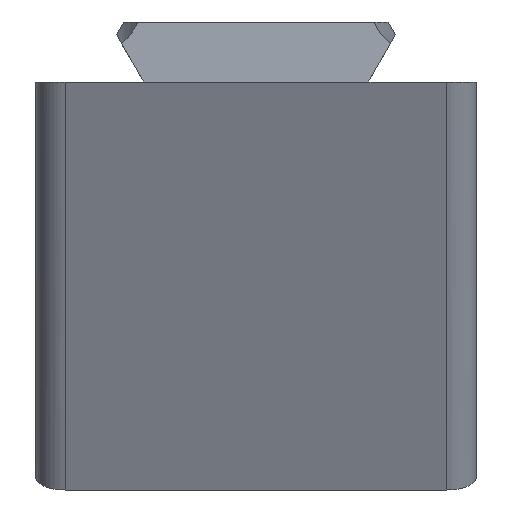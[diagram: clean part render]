
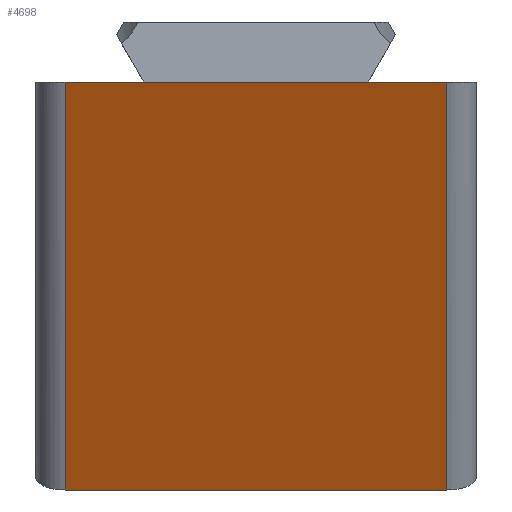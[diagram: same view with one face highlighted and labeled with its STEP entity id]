
A CAD part, left-side view. The second image highlights one B-rep face of the part: STEP entity #4698.
In plain terms, the highlighted planar face has unit normal (-0.906, 0, -0.423).
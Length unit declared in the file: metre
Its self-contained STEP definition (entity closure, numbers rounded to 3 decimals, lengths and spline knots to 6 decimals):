
#696=ORIENTED_EDGE('',*,*,#1896,.T.);
#697=ORIENTED_EDGE('',*,*,#2096,.T.);
#698=ORIENTED_EDGE('',*,*,#1828,.F.);
#699=ORIENTED_EDGE('',*,*,#2097,.T.);
#700=ORIENTED_EDGE('',*,*,#1910,.T.);
#701=ORIENTED_EDGE('',*,*,#2092,.T.);
#1828=EDGE_CURVE('',#2544,#2545,#3021,.T.);
#1896=EDGE_CURVE('',#2603,#2610,#3064,.T.);
#1910=EDGE_CURVE('',#2621,#2595,#3071,.T.);
#2092=EDGE_CURVE('',#2595,#2603,#3155,.T.);
#2096=EDGE_CURVE('',#2610,#2545,#3156,.T.);
#2097=EDGE_CURVE('',#2544,#2621,#3157,.F.);
#2544=VERTEX_POINT('',#6460);
#2545=VERTEX_POINT('',#6462);
#2595=VERTEX_POINT('',#6569);
#2603=VERTEX_POINT('',#6587);
#2610=VERTEX_POINT('',#6604);
#2621=VERTEX_POINT('',#6630);
#3021=LINE('',#6461,#3483);
#3064=LINE('',#6605,#3526);
#3071=LINE('',#6629,#3533);
#3155=LINE('',#7095,#3617);
#3156=LINE('',#7105,#3618);
#3157=LINE('',#7106,#3619);
#3483=VECTOR('',#5311,1.);
#3526=VECTOR('',#5424,1.);
#3533=VECTOR('',#5445,1.);
#3617=VECTOR('',#5631,1.);
#3618=VECTOR('',#5646,1.);
#3619=VECTOR('',#5647,1.);
#3984=EDGE_LOOP('',(#696,#697,#698,#699,#700,#701));
#4282=FACE_BOUND('',#3984,.T.);
#4553=PLANE('',#5056);
#4698=ADVANCED_FACE('',(#4282),#4553,.F.);
#5056=AXIS2_PLACEMENT_3D('',#7104,#5644,#5645);
#5311=DIRECTION('',(0.,1.,0.));
#5424=DIRECTION('',(0.,1.,0.));
#5445=DIRECTION('',(0.,1.,0.));
#5631=DIRECTION('',(0.,1.,0.));
#5644=DIRECTION('',(0.906,0.,0.423));
#5645=DIRECTION('',(0.423,0.,-0.906));
#5646=DIRECTION('',(0.423,0.,-0.906));
#5647=DIRECTION('',(0.423,0.,-0.906));
#6460=CARTESIAN_POINT('',(0.012952,-0.013,-0.027776));
#6461=CARTESIAN_POINT('',(0.012952,-0.015,-0.027776));
#6462=CARTESIAN_POINT('',(0.012952,0.013,-0.027776));
#6569=CARTESIAN_POINT('',(0.,-0.007695,0.));
#6587=CARTESIAN_POINT('',(0.,0.007695,0.));
#6604=CARTESIAN_POINT('',(0.,0.013,0.));
#6605=CARTESIAN_POINT('',(0.,-0.015,0.));
#6629=CARTESIAN_POINT('',(0.,-0.015,0.));
#6630=CARTESIAN_POINT('',(0.,-0.013,0.));
#7095=CARTESIAN_POINT('',(0.,0.,0.));
#7104=CARTESIAN_POINT('',(0.006476,-0.015,-0.013888));
#7105=CARTESIAN_POINT('',(0.006476,0.013,-0.013888));
#7106=CARTESIAN_POINT('',(0.,-0.013,0.));
